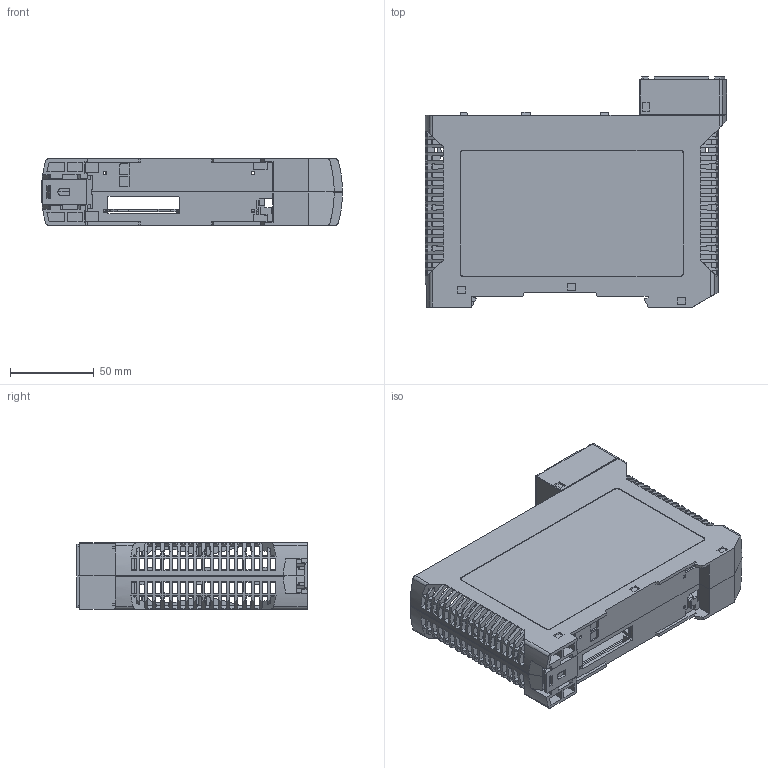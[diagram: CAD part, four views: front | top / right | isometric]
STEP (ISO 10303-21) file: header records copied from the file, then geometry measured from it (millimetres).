
FILE_DESCRIPTION(('SolidDesigner STEP Export'),'2;1');
FILE_NAME('2201499.stp','2014-06-11T15:18:51',(''),(''),'Creo Elements/Direct Modeling STEP processor for AP214 (Solid Model)','Creo Elements/Direct Modeling 18.1 06-May-2012 (C) Parametric Technology GmbH','');
FILE_SCHEMA(('AUTOMOTIVE_DESIGN { 1 0 10303 214 1 1 1 1 }'));
Length unit declared in the file: millimetre
Products named in the file (5): ME_PLC_40_HL_BUS_10-10_H.Select_00706668; ME_PLC_40_HR_H.Select_00699116; ME_PLC_PCB_B_S1-BASE_H.Select_00706237; UTA_FUSSRIEGEL-30_H.Select__00408137; 2201499
Assembly tree (4 placements, depth 2):
  2201499
    UTA_FUSSRIEGEL-30_H.Select__00408137
    ME_PLC_PCB_B_S1-BASE_H.Select_00706237
    ME_PLC_40_HR_H.Select_00699116
    ME_PLC_40_HL_BUS_10-10_H.Select_00706668
Bounding box: 180.05 x 137.7 x 39.7 mm (x, y, z)
Volume: 135092.5 mm3; surface area: 150195.5 mm2
Topology: 4 solids, 4 shells, 3478 faces, 10237 edges, 6717 vertices
Faces by surface type: plane 3356, cylinder 104, cone 10, torus 8
Entity records: 139924 total; most frequent: ORIENTED_EDGE 20474, CARTESIAN_POINT 20071, DIRECTION 16993, EDGE_CURVE 10237, VECTOR 9611, LINE 9611, VERTEX_POINT 6717, EDGE_LOOP 3734
